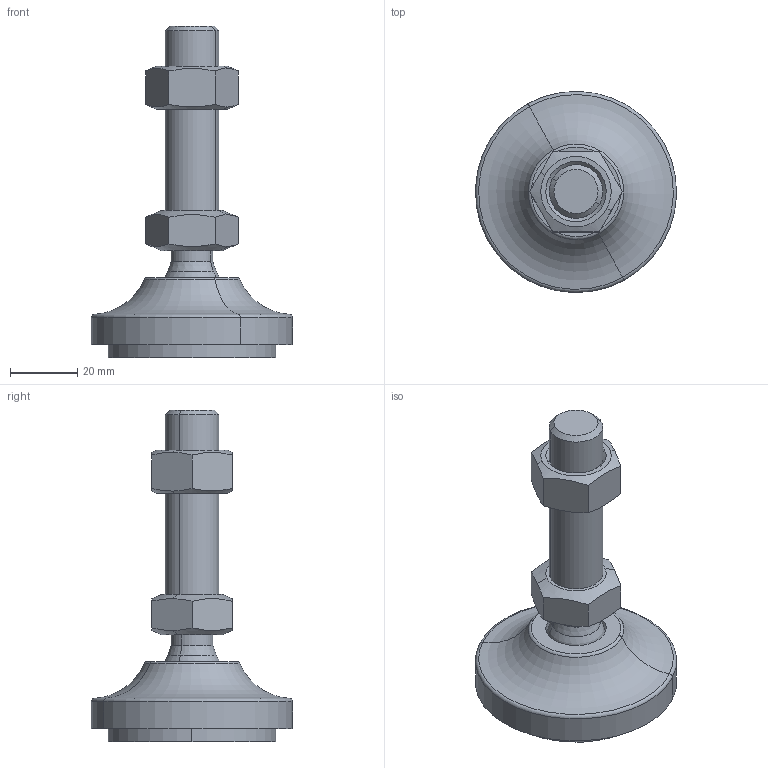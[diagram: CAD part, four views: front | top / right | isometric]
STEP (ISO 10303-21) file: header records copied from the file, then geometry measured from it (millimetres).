
FILE_DESCRIPTION(('CATIA V5 STEP Exchange'),'2;1');
FILE_NAME('C:\Users\ALI OZGUN\Desktop\alhan\saplama2\560602610AV.stp','2017-09-21T10:30:02+00:00',('none'),('none'),'CATIA Version 5 Release 21 GA (IN-10)','CATIA V5 STEP AP203','none');
FILE_SCHEMA(('CONFIG_CONTROL_DESIGN'));
Length unit declared in the file: millimetre
Products named in the file (1): 560602610AV
Bounding box: 59.98 x 59.98 x 99 mm (x, y, z)
Volume: 66217.9 mm3; surface area: 21787.6 mm2
Topology: 4 solids, 4 shells, 64 faces, 142 edges, 87 vertices
Faces by surface type: plane 22, cylinder 16, cone 16, torus 6, revolution 2, sphere 2
Entity records: 1949 total; most frequent: CARTESIAN_POINT 641, ORIENTED_EDGE 280, DIRECTION 198, EDGE_CURVE 140, AXIS2_PLACEMENT_3D 107, VERTEX_POINT 87, EDGE_LOOP 71, ADVANCED_FACE 64
